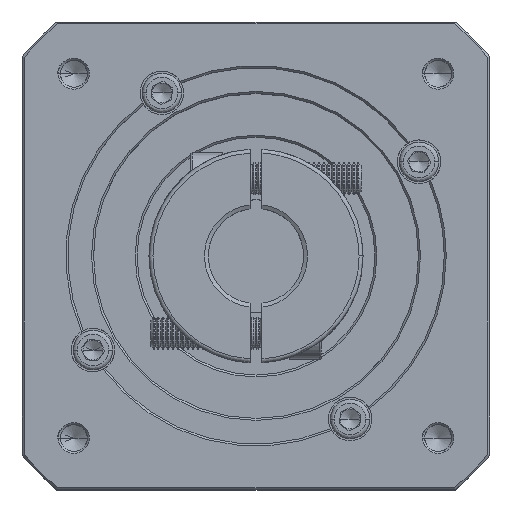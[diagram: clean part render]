
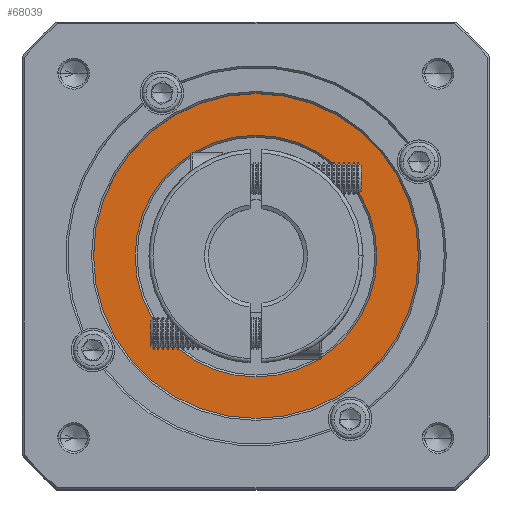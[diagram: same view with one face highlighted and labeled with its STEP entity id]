
A CAD part, top view. The second image highlights one B-rep face of the part: STEP entity #68039.
In plain terms, the highlighted planar face has unit normal (0, 0, 1).
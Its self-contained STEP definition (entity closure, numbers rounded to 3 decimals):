
#863 = AXIS2_PLACEMENT_3D ( 'NONE', #40780, #107004, #50392 ) ;
#4014 = AXIS2_PLACEMENT_3D ( 'NONE', #80319, #23608, #89847 ) ;
#9145 = CIRCLE ( 'NONE', #79804, 30.5 ) ;
#14014 = CARTESIAN_POINT ( 'NONE',  ( 69.096, 90.323, 36.003 ) ) ;
#14699 = ORIENTED_EDGE ( 'NONE', *, *, #47625, .T. ) ;
#23537 = DIRECTION ( 'NONE',  ( 0., -1., 0. ) ) ;
#23608 = DIRECTION ( 'NONE',  ( 0., 0., 1. ) ) ;
#26561 = VERTEX_POINT ( 'NONE', #48836 ) ;
#27729 = CARTESIAN_POINT ( 'NONE',  ( 28.096, 90.323, 36.003 ) ) ;
#34259 = EDGE_CURVE ( 'NONE', #26561, #118897, #59094, .T. ) ;
#38984 = EDGE_CURVE ( 'NONE', #114193, #79380, #9145, .T. ) ;
#40780 = CARTESIAN_POINT ( 'NONE',  ( 69.096, 90.323, 36.003 ) ) ;
#45023 = CARTESIAN_POINT ( 'NONE',  ( 69.096, 90.323, 36.003 ) ) ;
#47402 = ORIENTED_EDGE ( 'NONE', *, *, #34259, .T. ) ;
#47525 = FACE_BOUND ( 'NONE', #92654, .T. ) ;
#47625 = EDGE_CURVE ( 'NONE', #118897, #26561, #103116, .T. ) ;
#48836 = CARTESIAN_POINT ( 'NONE',  ( 110.096, 90.323, 36.003 ) ) ;
#50223 = CARTESIAN_POINT ( 'NONE',  ( 69.096, 90.323, 36.003 ) ) ;
#50392 = DIRECTION ( 'NONE',  ( 1., 0., 0. ) ) ;
#51222 = CIRCLE ( 'NONE', #58261, 30.5 ) ;
#52334 = AXIS2_PLACEMENT_3D ( 'NONE', #45023, #111178, #54568 ) ;
#54568 = DIRECTION ( 'NONE',  ( 1., 0., 0. ) ) ;
#57087 = EDGE_LOOP ( 'NONE', ( #47402, #14699 ) ) ;
#58261 = AXIS2_PLACEMENT_3D ( 'NONE', #14014, #80255, #23537 ) ;
#59094 = CIRCLE ( 'NONE', #52334, 41. ) ;
#59723 = DIRECTION ( 'NONE',  ( 0., -1., 0. ) ) ;
#61970 = CARTESIAN_POINT ( 'NONE',  ( 69.096, 120.823, 36.003 ) ) ;
#62318 = CARTESIAN_POINT ( 'NONE',  ( 69.096, 59.823, 36.003 ) ) ;
#67894 = ORIENTED_EDGE ( 'NONE', *, *, #38984, .T. ) ;
#68039 = ADVANCED_FACE ( 'NONE', ( #97810, #47525 ), #116093, .T. ) ;
#78836 = EDGE_CURVE ( 'NONE', #79380, #114193, #51222, .T. ) ;
#79380 = VERTEX_POINT ( 'NONE', #62318 ) ;
#79804 = AXIS2_PLACEMENT_3D ( 'NONE', #50223, #116329, #59723 ) ;
#80255 = DIRECTION ( 'NONE',  ( 0., 0., -1. ) ) ;
#80319 = CARTESIAN_POINT ( 'NONE',  ( 69.096, 90.323, 36.003 ) ) ;
#89847 = DIRECTION ( 'NONE',  ( 1., 0., 0. ) ) ;
#92654 = EDGE_LOOP ( 'NONE', ( #98462, #67894 ) ) ;
#97810 = FACE_OUTER_BOUND ( 'NONE', #57087, .T. ) ;
#98462 = ORIENTED_EDGE ( 'NONE', *, *, #78836, .T. ) ;
#103116 = CIRCLE ( 'NONE', #4014, 41. ) ;
#107004 = DIRECTION ( 'NONE',  ( 0., 0., 1. ) ) ;
#111178 = DIRECTION ( 'NONE',  ( 0., 0., 1. ) ) ;
#114193 = VERTEX_POINT ( 'NONE', #61970 ) ;
#116093 = PLANE ( 'NONE',  #863 ) ;
#116329 = DIRECTION ( 'NONE',  ( 0., 0., -1. ) ) ;
#118897 = VERTEX_POINT ( 'NONE', #27729 ) ;
